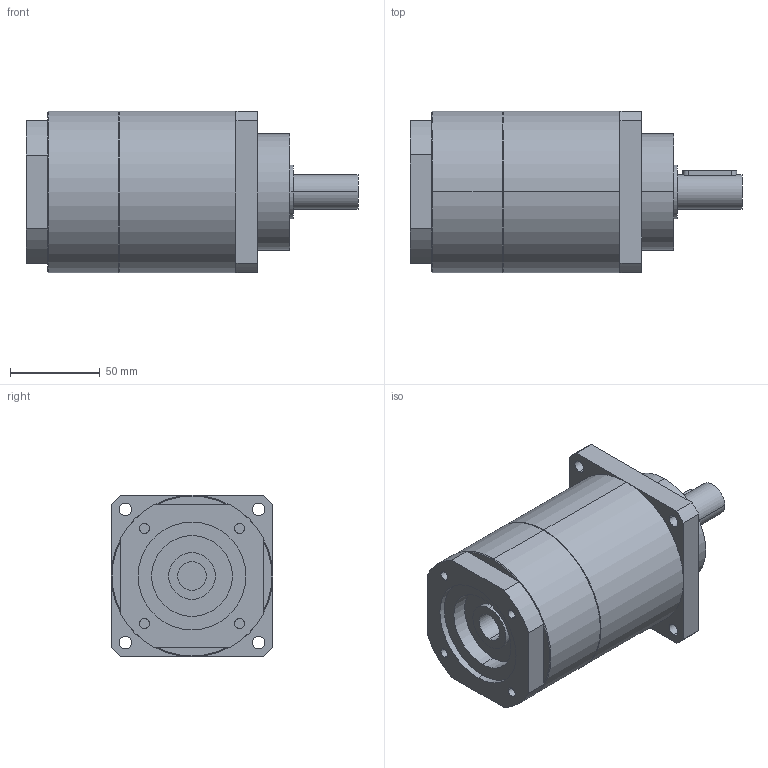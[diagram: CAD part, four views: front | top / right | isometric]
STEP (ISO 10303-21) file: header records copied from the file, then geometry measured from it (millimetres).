
FILE_DESCRIPTION(('CoCreate Modeling STEP Export'),'2;1');
FILE_NAME('GPT90_ig-9-12-16-20-25-28-35-40-50-70-100_19_B5T_16_P03.stp','2015-02-04T11:31:50',(''),(''),'CoCreate Modeling STEP processor for AP214 (Solid Model)','CoCreate Modeling 16.00C 25-Feb-2009 (C) Parametric Technology GmbH','');
FILE_SCHEMA(('AUTOMOTIVE_DESIGN { 1 0 10303 214 1 1 1 1 }'));
Length unit declared in the file: millimetre
Products named in the file (2): GPT90_ig-9-12-16-20-25-28-35-40-50-70-100_19_B5T_16_P03
Assembly tree (1 placements, depth 2):
  GPT90_ig-9-12-16-20-25-28-35-40-50-70-100_19_B5T_16_P03
    GPT90_ig-9-12-16-20-25-28-35-40-50-70-100_19_B5T_16_P03
Bounding box: 185 x 90 x 90 mm (x, y, z)
Volume: 873636.4 mm3; surface area: 65446 mm2
Topology: 1 solids, 1 shells, 88 faces, 221 edges, 148 vertices
Faces by surface type: cylinder 46, plane 38, cone 4
Entity records: 2699 total; most frequent: CARTESIAN_POINT 754, ORIENTED_EDGE 442, DIRECTION 330, EDGE_CURVE 221, VERTEX_POINT 148, AXIS2_PLACEMENT_3D 121, EDGE_LOOP 109, VECTOR 88
